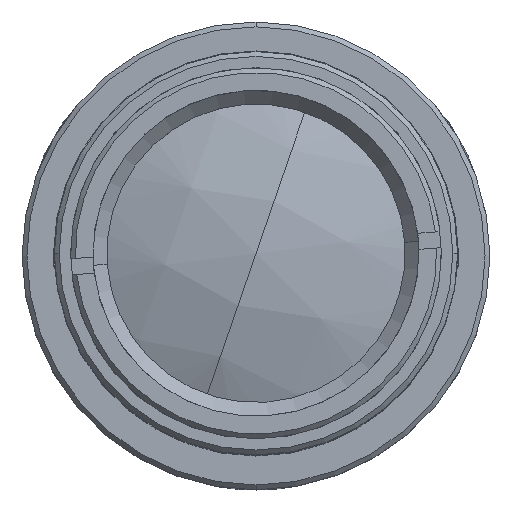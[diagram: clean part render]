
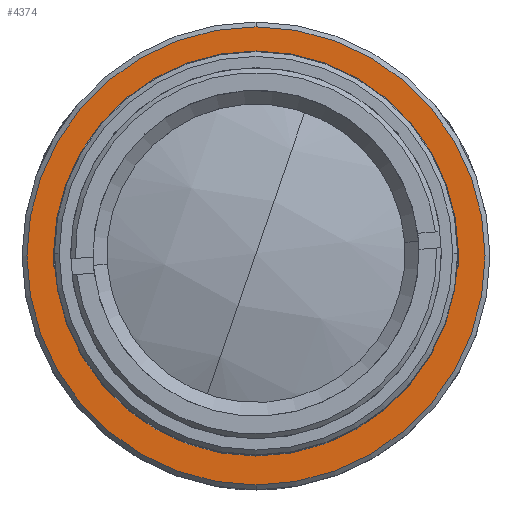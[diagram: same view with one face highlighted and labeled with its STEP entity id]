
A CAD part, top view. The second image highlights one B-rep face of the part: STEP entity #4374.
In plain terms, the highlighted planar face has unit normal (0, 0, 1).
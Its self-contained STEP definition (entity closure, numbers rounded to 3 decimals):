
#2697 = EDGE_CURVE('',#2698,#2700,#2702,.T.);
#2698 = VERTEX_POINT('',#2699);
#2699 = CARTESIAN_POINT('',(0.,-14.2,24.026));
#2700 = VERTEX_POINT('',#2701);
#2701 = CARTESIAN_POINT('',(0.,14.2,24.026));
#2702 = SURFACE_CURVE('',#2703,(#2708,#2720),.PCURVE_S1.);
#2703 = CIRCLE('',#2704,14.2);
#2704 = AXIS2_PLACEMENT_3D('',#2705,#2706,#2707);
#2705 = CARTESIAN_POINT('',(0.,0.,24.026));
#2706 = DIRECTION('',(0.,0.,1.));
#2707 = DIRECTION('',(0.,1.,0.));
#2708 = PCURVE('',#2709,#2714);
#2709 = CONICAL_SURFACE('',#2710,14.2,0.785);
#2710 = AXIS2_PLACEMENT_3D('',#2711,#2712,#2713);
#2711 = CARTESIAN_POINT('',(0.,0.,24.026));
#2712 = DIRECTION('',(0.,0.,-1.));
#2713 = DIRECTION('',(0.,1.,0.));
#2714 = DEFINITIONAL_REPRESENTATION('',(#2715),#2719);
#2715 = LINE('',#2716,#2717);
#2716 = CARTESIAN_POINT('',(6.283,0.));
#2717 = VECTOR('',#2718,1.);
#2718 = DIRECTION('',(-1.,0.));
#2719 = ( GEOMETRIC_REPRESENTATION_CONTEXT(2) 
PARAMETRIC_REPRESENTATION_CONTEXT() REPRESENTATION_CONTEXT('',''
  ) );
#2720 = PCURVE('',#2721,#2726);
#2721 = PLANE('',#2722);
#2722 = AXIS2_PLACEMENT_3D('',#2723,#2724,#2725);
#2723 = CARTESIAN_POINT('',(0.,11.,24.026));
#2724 = DIRECTION('',(0.,0.,-1.));
#2725 = DIRECTION('',(0.,1.,0.));
#2726 = DEFINITIONAL_REPRESENTATION('',(#2727),#2735);
#2727 = ( BOUNDED_CURVE() B_SPLINE_CURVE(2,(#2728,#2729,#2730,#2731,
#2732,#2733,#2734),.UNSPECIFIED.,.T.,.F.) B_SPLINE_CURVE_WITH_KNOTS((1,2
    ,2,2,2,1),(-2.094,0.,2.094,4.189,
6.283,8.378),.UNSPECIFIED.) CURVE() 
GEOMETRIC_REPRESENTATION_ITEM() RATIONAL_B_SPLINE_CURVE((1.,0.5,1.,0.5,
1.,0.5,1.)) REPRESENTATION_ITEM('') );
#2728 = CARTESIAN_POINT('',(3.2,0.));
#2729 = CARTESIAN_POINT('',(3.2,-24.595));
#2730 = CARTESIAN_POINT('',(-18.1,-12.298));
#2731 = CARTESIAN_POINT('',(-39.4,0.));
#2732 = CARTESIAN_POINT('',(-18.1,12.298));
#2733 = CARTESIAN_POINT('',(3.2,24.595));
#2734 = CARTESIAN_POINT('',(3.2,0.));
#2735 = ( GEOMETRIC_REPRESENTATION_CONTEXT(2) 
PARAMETRIC_REPRESENTATION_CONTEXT() REPRESENTATION_CONTEXT('',''
  ) );
#2753 = CONICAL_SURFACE('',#2754,14.2,0.785);
#2754 = AXIS2_PLACEMENT_3D('',#2755,#2756,#2757);
#2755 = CARTESIAN_POINT('',(0.,0.,24.026));
#2756 = DIRECTION('',(0.,0.,-1.));
#2757 = DIRECTION('',(0.,1.,0.));
#2816 = VERTEX_POINT('',#2817);
#2817 = CARTESIAN_POINT('',(0.,-11.3,24.026));
#2824 = CONICAL_SURFACE('',#2825,11.,0.785);
#2825 = AXIS2_PLACEMENT_3D('',#2826,#2827,#2828);
#2826 = CARTESIAN_POINT('',(0.,0.,23.726));
#2827 = DIRECTION('',(0.,0.,1.));
#2828 = DIRECTION('',(-0.,-1.,0.));
#2836 = CONICAL_SURFACE('',#2837,11.,0.785);
#2837 = AXIS2_PLACEMENT_3D('',#2838,#2839,#2840);
#2838 = CARTESIAN_POINT('',(0.,0.,23.726));
#2839 = DIRECTION('',(0.,0.,1.));
#2840 = DIRECTION('',(-0.,-1.,0.));
#2848 = EDGE_CURVE('',#2816,#2849,#2851,.T.);
#2849 = VERTEX_POINT('',#2850);
#2850 = CARTESIAN_POINT('',(0.,11.3,24.026));
#2851 = SURFACE_CURVE('',#2852,(#2857,#2864),.PCURVE_S1.);
#2852 = CIRCLE('',#2853,11.3);
#2853 = AXIS2_PLACEMENT_3D('',#2854,#2855,#2856);
#2854 = CARTESIAN_POINT('',(0.,0.,24.026));
#2855 = DIRECTION('',(0.,0.,-1.));
#2856 = DIRECTION('',(0.,1.,0.));
#2857 = PCURVE('',#2824,#2858);
#2858 = DEFINITIONAL_REPRESENTATION('',(#2859),#2863);
#2859 = LINE('',#2860,#2861);
#2860 = CARTESIAN_POINT('',(9.425,0.3));
#2861 = VECTOR('',#2862,1.);
#2862 = DIRECTION('',(-1.,0.));
#2863 = ( GEOMETRIC_REPRESENTATION_CONTEXT(2) 
PARAMETRIC_REPRESENTATION_CONTEXT() REPRESENTATION_CONTEXT('',''
  ) );
#2864 = PCURVE('',#2721,#2865);
#2865 = DEFINITIONAL_REPRESENTATION('',(#2866),#2870);
#2866 = CIRCLE('',#2867,11.3);
#2867 = AXIS2_PLACEMENT_2D('',#2868,#2869);
#2868 = CARTESIAN_POINT('',(-11.,0.));
#2869 = DIRECTION('',(1.,0.));
#2870 = ( GEOMETRIC_REPRESENTATION_CONTEXT(2) 
PARAMETRIC_REPRESENTATION_CONTEXT() REPRESENTATION_CONTEXT('',''
  ) );
#4374 = ADVANCED_FACE('',(#4375,#4400),#2721,.F.);
#4375 = FACE_BOUND('',#4376,.T.);
#4376 = EDGE_LOOP('',(#4377,#4378));
#4377 = ORIENTED_EDGE('',*,*,#2848,.T.);
#4378 = ORIENTED_EDGE('',*,*,#4379,.T.);
#4379 = EDGE_CURVE('',#2849,#2816,#4380,.T.);
#4380 = SURFACE_CURVE('',#4381,(#4386,#4393),.PCURVE_S1.);
#4381 = CIRCLE('',#4382,11.3);
#4382 = AXIS2_PLACEMENT_3D('',#4383,#4384,#4385);
#4383 = CARTESIAN_POINT('',(0.,0.,24.026));
#4384 = DIRECTION('',(0.,0.,-1.));
#4385 = DIRECTION('',(0.,1.,0.));
#4386 = PCURVE('',#2721,#4387);
#4387 = DEFINITIONAL_REPRESENTATION('',(#4388),#4392);
#4388 = CIRCLE('',#4389,11.3);
#4389 = AXIS2_PLACEMENT_2D('',#4390,#4391);
#4390 = CARTESIAN_POINT('',(-11.,0.));
#4391 = DIRECTION('',(1.,0.));
#4392 = ( GEOMETRIC_REPRESENTATION_CONTEXT(2) 
PARAMETRIC_REPRESENTATION_CONTEXT() REPRESENTATION_CONTEXT('',''
  ) );
#4393 = PCURVE('',#2836,#4394);
#4394 = DEFINITIONAL_REPRESENTATION('',(#4395),#4399);
#4395 = LINE('',#4396,#4397);
#4396 = CARTESIAN_POINT('',(3.142,0.3));
#4397 = VECTOR('',#4398,1.);
#4398 = DIRECTION('',(-1.,0.));
#4399 = ( GEOMETRIC_REPRESENTATION_CONTEXT(2) 
PARAMETRIC_REPRESENTATION_CONTEXT() REPRESENTATION_CONTEXT('',''
  ) );
#4400 = FACE_BOUND('',#4401,.T.);
#4401 = EDGE_LOOP('',(#4402,#4428));
#4402 = ORIENTED_EDGE('',*,*,#4403,.T.);
#4403 = EDGE_CURVE('',#2700,#2698,#4404,.T.);
#4404 = SURFACE_CURVE('',#4405,(#4410,#4421),.PCURVE_S1.);
#4405 = CIRCLE('',#4406,14.2);
#4406 = AXIS2_PLACEMENT_3D('',#4407,#4408,#4409);
#4407 = CARTESIAN_POINT('',(0.,0.,24.026));
#4408 = DIRECTION('',(0.,0.,1.));
#4409 = DIRECTION('',(0.,1.,0.));
#4410 = PCURVE('',#2721,#4411);
#4411 = DEFINITIONAL_REPRESENTATION('',(#4412),#4420);
#4412 = ( BOUNDED_CURVE() B_SPLINE_CURVE(2,(#4413,#4414,#4415,#4416,
#4417,#4418,#4419),.UNSPECIFIED.,.T.,.F.) B_SPLINE_CURVE_WITH_KNOTS((1,2
    ,2,2,2,1),(-2.094,0.,2.094,4.189,
6.283,8.378),.UNSPECIFIED.) CURVE() 
GEOMETRIC_REPRESENTATION_ITEM() RATIONAL_B_SPLINE_CURVE((1.,0.5,1.,0.5,
1.,0.5,1.)) REPRESENTATION_ITEM('') );
#4413 = CARTESIAN_POINT('',(3.2,0.));
#4414 = CARTESIAN_POINT('',(3.2,-24.595));
#4415 = CARTESIAN_POINT('',(-18.1,-12.298));
#4416 = CARTESIAN_POINT('',(-39.4,0.));
#4417 = CARTESIAN_POINT('',(-18.1,12.298));
#4418 = CARTESIAN_POINT('',(3.2,24.595));
#4419 = CARTESIAN_POINT('',(3.2,0.));
#4420 = ( GEOMETRIC_REPRESENTATION_CONTEXT(2) 
PARAMETRIC_REPRESENTATION_CONTEXT() REPRESENTATION_CONTEXT('',''
  ) );
#4421 = PCURVE('',#2753,#4422);
#4422 = DEFINITIONAL_REPRESENTATION('',(#4423),#4427);
#4423 = LINE('',#4424,#4425);
#4424 = CARTESIAN_POINT('',(6.283,0.));
#4425 = VECTOR('',#4426,1.);
#4426 = DIRECTION('',(-1.,0.));
#4427 = ( GEOMETRIC_REPRESENTATION_CONTEXT(2) 
PARAMETRIC_REPRESENTATION_CONTEXT() REPRESENTATION_CONTEXT('',''
  ) );
#4428 = ORIENTED_EDGE('',*,*,#2697,.T.);
